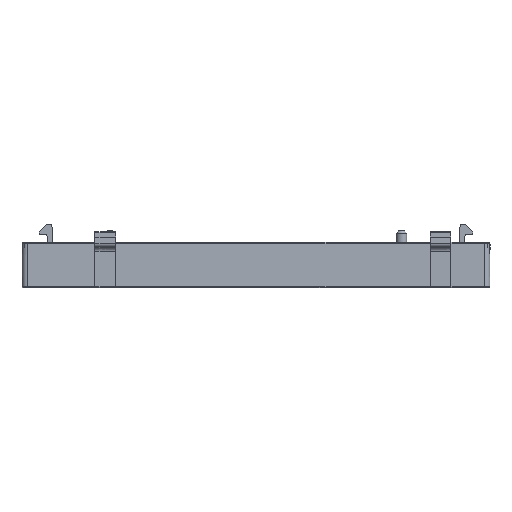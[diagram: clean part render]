
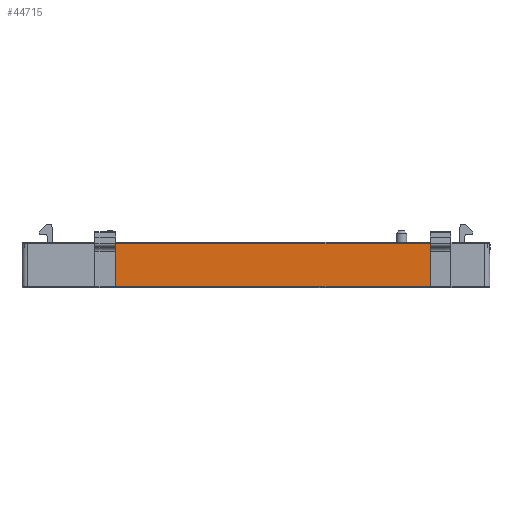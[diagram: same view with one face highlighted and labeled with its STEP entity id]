
A CAD part, front view. The second image highlights one B-rep face of the part: STEP entity #44715.
In plain terms, the highlighted planar face has unit normal (0, -1, 0.009).
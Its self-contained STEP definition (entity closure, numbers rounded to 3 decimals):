
#9719 = ORIENTED_EDGE ( 'NONE', *, *, #44707, .T. ) ;
#9730 = ORIENTED_EDGE ( 'NONE', *, *, #9738, .T. ) ;
#9738 = EDGE_CURVE ( 'NONE', #44705, #9739, #41558, .T. ) ;
#9739 = VERTEX_POINT ( 'NONE', #41554 ) ;
#9740 = EDGE_CURVE ( 'NONE', #23066, #9739, #41553, .T. ) ;
#9741 = ORIENTED_EDGE ( 'NONE', *, *, #9740, .F. ) ;
#11406 = CARTESIAN_POINT ( 'NONE',  ( -27., 0.075, 8.602 ) ) ;
#20782 = EDGE_CURVE ( 'NONE', #44708, #23066, #28966, .T. ) ;
#20783 = ORIENTED_EDGE ( 'NONE', *, *, #20782, .F. ) ;
#23032 = DIRECTION ( 'NONE',  ( 1., 0., 0. ) ) ;
#23066 = VERTEX_POINT ( 'NONE', #11406 ) ;
#23248 = CARTESIAN_POINT ( 'NONE',  ( -27., 0.002, 0.202 ) ) ;
#23249 = DIRECTION ( 'NONE',  ( 1., 0., 0. ) ) ;
#23250 = VECTOR ( 'NONE', #23249, 1000. ) ;
#23251 = CARTESIAN_POINT ( 'NONE',  ( -27., 0.002, 0.202 ) ) ;
#23256 = CARTESIAN_POINT ( 'NONE',  ( 33.5, 0.002, 0.202 ) ) ;
#23258 = LINE ( 'NONE', #23251, #23250 ) ;
#23267 = DIRECTION ( 'NONE',  ( 0., -1., 0.009 ) ) ;
#23268 = CARTESIAN_POINT ( 'NONE',  ( -45.114, 0., 0. ) ) ;
#23269 = AXIS2_PLACEMENT_3D ( 'NONE', #23268, #23267, #23032 ) ;
#23270 = PLANE ( 'NONE',  #23269 ) ;
#23285 = FACE_OUTER_BOUND ( 'NONE', #44716, .T. ) ;
#28966 = LINE ( 'NONE', #29021, #29020 ) ;
#29019 = DIRECTION ( 'NONE',  ( 0., 0.009, 1. ) ) ;
#29020 = VECTOR ( 'NONE', #29019, 1000. ) ;
#29021 = CARTESIAN_POINT ( 'NONE',  ( -27., 0.002, 0.202 ) ) ;
#41550 = DIRECTION ( 'NONE',  ( 1., 0., 0. ) ) ;
#41551 = VECTOR ( 'NONE', #41550, 1000. ) ;
#41552 = CARTESIAN_POINT ( 'NONE',  ( -27., 0.075, 8.602 ) ) ;
#41553 = LINE ( 'NONE', #41552, #41551 ) ;
#41554 = CARTESIAN_POINT ( 'NONE',  ( 33.5, 0.075, 8.602 ) ) ;
#41555 = DIRECTION ( 'NONE',  ( 0., 0.009, 1. ) ) ;
#41556 = VECTOR ( 'NONE', #41555, 1000. ) ;
#41557 = CARTESIAN_POINT ( 'NONE',  ( 33.5, 0.002, 0.202 ) ) ;
#41558 = LINE ( 'NONE', #41557, #41556 ) ;
#44705 = VERTEX_POINT ( 'NONE', #23256 ) ;
#44707 = EDGE_CURVE ( 'NONE', #44708, #44705, #23258, .T. ) ;
#44708 = VERTEX_POINT ( 'NONE', #23248 ) ;
#44715 = ADVANCED_FACE ( 'NONE', ( #23285 ), #23270, .T. ) ;
#44716 = EDGE_LOOP ( 'NONE', ( #20783, #9719, #9730, #9741 ) ) ;
